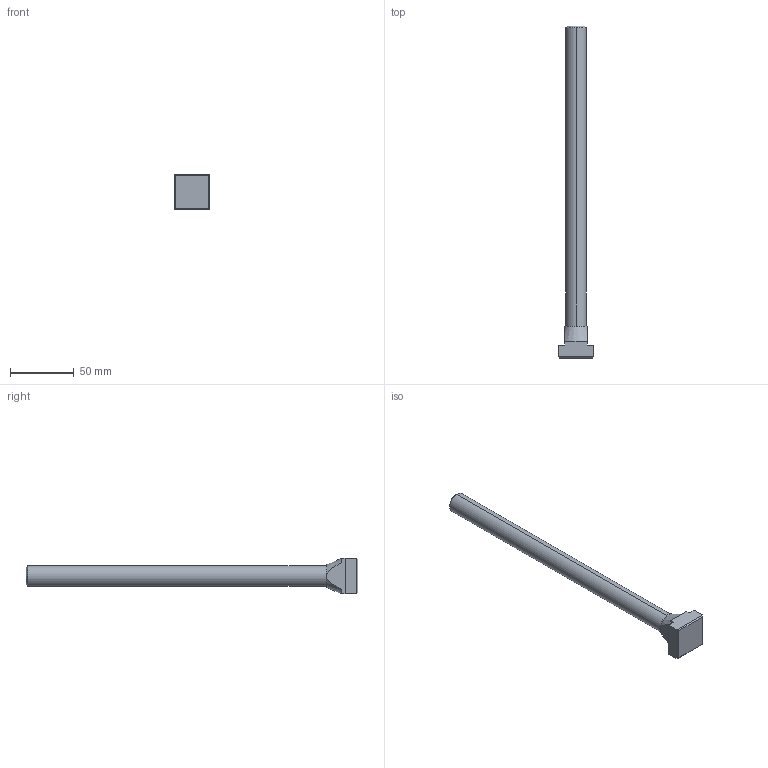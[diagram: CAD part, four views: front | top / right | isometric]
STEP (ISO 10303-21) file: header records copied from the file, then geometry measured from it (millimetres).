
FILE_DESCRIPTION (( 'STEP AP203' ), '1' );
FILE_NAME ('Wiberger-din787_18-m16x250.step', '2016-07-01T13:16:44', ( 'Magnus' ), ( 'Microsoft' ), 'SwSTEP 2.0', 'SolidWorks 2016', '' );
FILE_SCHEMA (( 'CONFIG_CONTROL_DESIGN' ));
Length unit declared in the file: millimetre
Products named in the file (1): Wiberger-din787_18-m16x250
Bounding box: 28 x 260 x 28 mm (x, y, z)
Volume: 60835.1 mm3; surface area: 15336.2 mm2
Topology: 1 solids, 1 shells, 27 faces, 66 edges, 42 vertices
Faces by surface type: plane 17, cone 5, cylinder 5
Entity records: 929 total; most frequent: CARTESIAN_POINT 216, ORIENTED_EDGE 132, DIRECTION 130, EDGE_CURVE 66, AXIS2_PLACEMENT_3D 44, VERTEX_POINT 42, LINE 42, VECTOR 42
